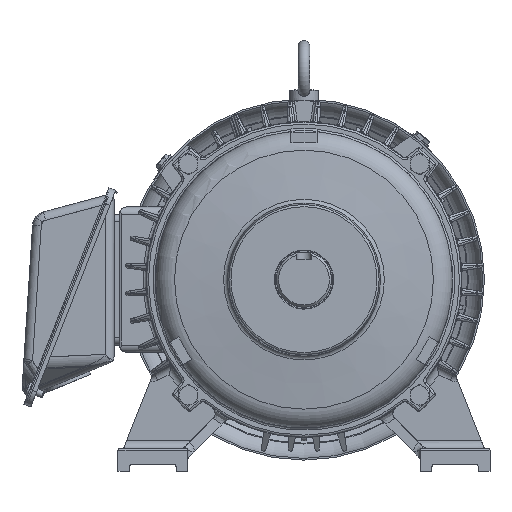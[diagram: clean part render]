
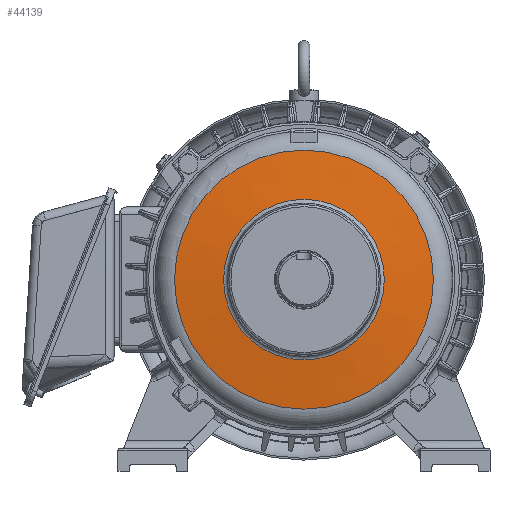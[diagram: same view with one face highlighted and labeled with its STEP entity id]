
A CAD part, front view. The second image highlights one B-rep face of the part: STEP entity #44139.
In plain terms, the highlighted conical face has half-angle 83.367 degrees and reference radius 53 mm.
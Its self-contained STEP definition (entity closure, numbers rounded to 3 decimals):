
#1010=CONICAL_SURFACE('',#46979,53.,1.455);
#11240=ORIENTED_EDGE('',*,*,#19809,.T.);
#11241=ORIENTED_EDGE('',*,*,#19810,.T.);
#19809=EDGE_CURVE('',#24386,#24386,#27101,.T.);
#19810=EDGE_CURVE('',#24387,#24387,#27102,.T.);
#24386=VERTEX_POINT('',#78692);
#24387=VERTEX_POINT('',#78694);
#27101=CIRCLE('',#46980,55.28);
#27102=CIRCLE('',#46981,89.082);
#29423=EDGE_LOOP('',(#11240));
#29424=EDGE_LOOP('',(#11241));
#32030=FACE_BOUND('',#29423,.T.);
#32031=FACE_BOUND('',#29424,.T.);
#44139=ADVANCED_FACE('',(#32030,#32031),#1010,.T.);
#46979=AXIS2_PLACEMENT_3D('',#78690,#52941,#52942);
#46980=AXIS2_PLACEMENT_3D('',#78691,#52943,#52944);
#46981=AXIS2_PLACEMENT_3D('',#78693,#52945,#52946);
#52941=DIRECTION('',(0.,1.,0.));
#52942=DIRECTION('',(-1.,0.,0.));
#52943=DIRECTION('',(0.,1.,0.));
#52944=DIRECTION('',(-1.,0.,0.));
#52945=DIRECTION('',(0.,-1.,0.));
#52946=DIRECTION('',(1.,0.,0.));
#78690=CARTESIAN_POINT('',(0.,10.,0.));
#78691=CARTESIAN_POINT('',(0.,10.265,0.));
#78692=CARTESIAN_POINT('',(-55.28,10.265,0.));
#78693=CARTESIAN_POINT('',(0.,14.196,0.));
#78694=CARTESIAN_POINT('',(89.082,14.196,0.));
